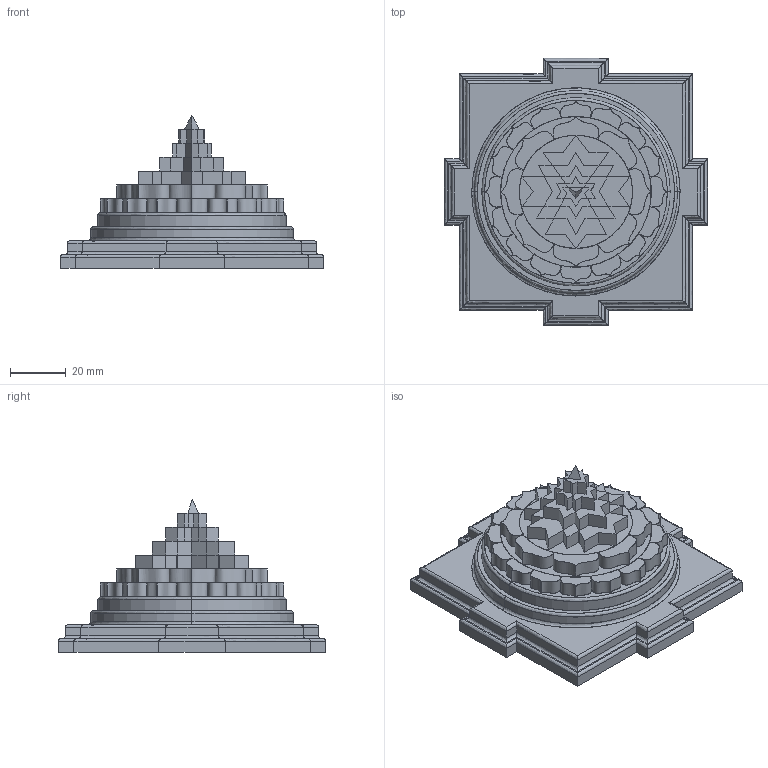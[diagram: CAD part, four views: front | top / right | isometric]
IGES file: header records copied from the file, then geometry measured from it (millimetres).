
Start section: SolidWorks IGES file using analytic representation for surfaces
Global section: file name: C:\Users\vaibh\Desktop\shri yantra\shri yantra.IGS; native system: SolidWorks 2022; preprocessor: SolidWorks 2022; author: vaibh; date: 231019.013532; units: millimetre
Bounding box: 94.54 x 96.06 x 54.96 mm (x, y, z)
Surface area: 33256.9 mm2 (no closed solid volume)
Topology: 0 solids, 0 shells, 345 faces, 4508 edges, 4508 vertices
Faces by surface type: bspline 251, revolution 94
